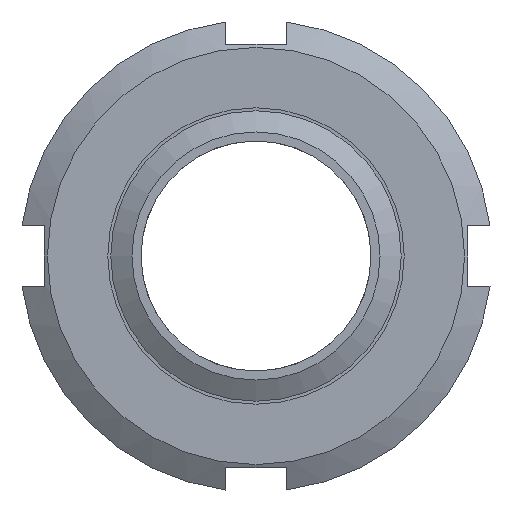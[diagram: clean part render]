
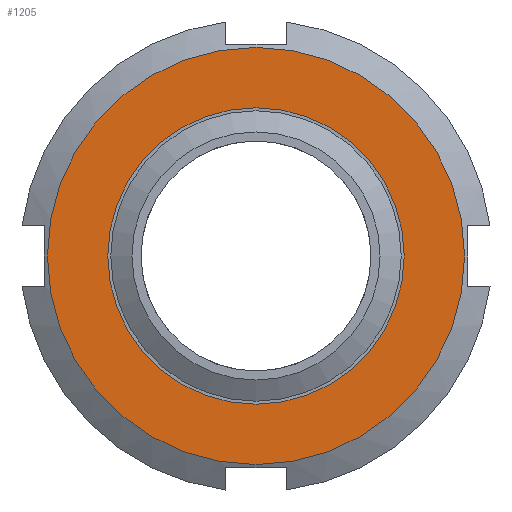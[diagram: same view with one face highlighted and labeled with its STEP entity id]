
A CAD part, front view. The second image highlights one B-rep face of the part: STEP entity #1205.
In plain terms, the highlighted planar face has unit normal (0, -1, 0) as drawn and (1, 0, 0) by its records, which use the part's own axes.
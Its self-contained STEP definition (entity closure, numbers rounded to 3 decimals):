
#170=FACE_BOUND('',#321,.T.);
#194=PLANE('',#1489);
#251=FACE_OUTER_BOUND('',#320,.T.);
#320=EDGE_LOOP('',(#1069,#1070));
#321=EDGE_LOOP('',(#1071,#1072));
#421=CIRCLE('',#1469,34.472);
#422=CIRCLE('',#1470,34.472);
#433=CIRCLE('',#1490,24.5);
#434=CIRCLE('',#1491,24.5);
#549=VERTEX_POINT('',#2247);
#550=VERTEX_POINT('',#2248);
#561=VERTEX_POINT('',#2304);
#562=VERTEX_POINT('',#2305);
#710=EDGE_CURVE('',#549,#550,#421,.T.);
#711=EDGE_CURVE('',#550,#549,#422,.T.);
#734=EDGE_CURVE('',#561,#562,#433,.T.);
#735=EDGE_CURVE('',#562,#561,#434,.T.);
#1069=ORIENTED_EDGE('',*,*,#710,.T.);
#1070=ORIENTED_EDGE('',*,*,#711,.T.);
#1071=ORIENTED_EDGE('',*,*,#734,.F.);
#1072=ORIENTED_EDGE('',*,*,#735,.F.);
#1205=ADVANCED_FACE('',(#251,#170),#194,.T.);
#1469=AXIS2_PLACEMENT_3D('',#2249,#1822,#1823);
#1470=AXIS2_PLACEMENT_3D('',#2250,#1824,#1825);
#1489=AXIS2_PLACEMENT_3D('',#2303,#1868,#1869);
#1490=AXIS2_PLACEMENT_3D('',#2306,#1870,#1871);
#1491=AXIS2_PLACEMENT_3D('',#2307,#1872,#1873);
#1822=DIRECTION('center_axis',(1.,0.,0.));
#1823=DIRECTION('ref_axis',(0.,0.,-1.));
#1824=DIRECTION('center_axis',(1.,0.,0.));
#1825=DIRECTION('ref_axis',(0.,0.,-1.));
#1868=DIRECTION('center_axis',(1.,0.,0.));
#1869=DIRECTION('ref_axis',(0.,0.,-1.));
#1870=DIRECTION('center_axis',(1.,0.,0.));
#1871=DIRECTION('ref_axis',(0.,0.,-1.));
#1872=DIRECTION('center_axis',(1.,0.,0.));
#1873=DIRECTION('ref_axis',(0.,0.,-1.));
#2247=CARTESIAN_POINT('',(21.,34.472,0.));
#2248=CARTESIAN_POINT('',(21.,-34.472,0.));
#2249=CARTESIAN_POINT('Origin',(21.,0.,0.));
#2250=CARTESIAN_POINT('Origin',(21.,0.,0.));
#2303=CARTESIAN_POINT('Origin',(21.,24.5,0.));
#2304=CARTESIAN_POINT('',(21.,24.5,0.));
#2305=CARTESIAN_POINT('',(21.,-24.5,0.));
#2306=CARTESIAN_POINT('Origin',(21.,0.,0.));
#2307=CARTESIAN_POINT('Origin',(21.,0.,0.));
